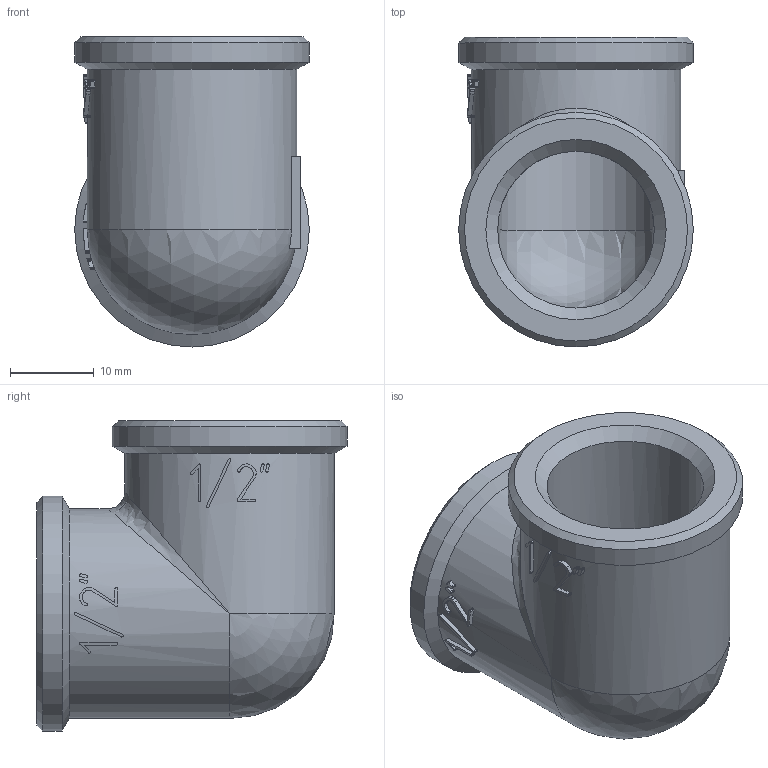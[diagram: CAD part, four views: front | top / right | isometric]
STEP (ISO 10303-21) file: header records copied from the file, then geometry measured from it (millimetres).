
FILE_DESCRIPTION(('STEP AP203'), '1');
FILE_NAME('ÂÐ.752213.001 - VTr.090.N.0004 - Ôèò. ðåçüá. óãîë', '2024-06-19T11:13:18', ('Boss'), (''), 'C3D Converter', 'C3D Toolkit', '');
FILE_SCHEMA(('CONFIG_CONTROL_DESIGN'));
Length unit declared in the file: millimetre
Products named in the file (1): ВР.752213.001
Bounding box: 28 x 37 x 37 mm (x, y, z)
Volume: 10405.4 mm3; surface area: 6944.5 mm2
Topology: 1 solids, 1 shells, 207 faces, 576 edges, 379 vertices
Faces by surface type: extrusion 116, plane 65, cylinder 17, cone 6, sphere 2, bspline 1
Full cylindrical faces by diameter (mm): 18.7 x2, 25 x2, 28 x2
Entity records: 9021 total; most frequent: CARTESIAN_POINT 4421, ORIENTED_EDGE 1120, DIRECTION 576, EDGE_CURVE 560, VERTEX_POINT 379, B_SPLINE_CURVE_WITH_KNOTS 353, VECTOR 328, EDGE_LOOP 233
